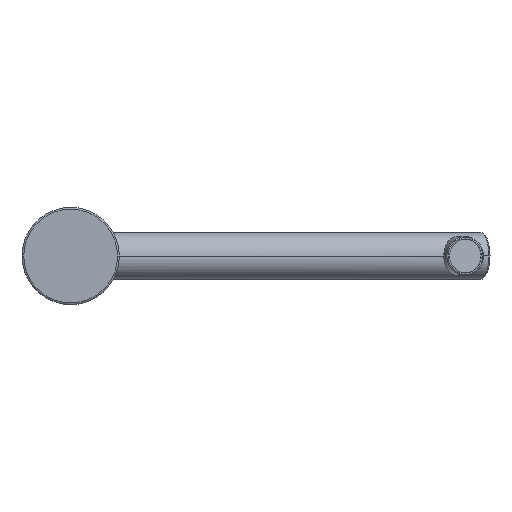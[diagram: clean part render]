
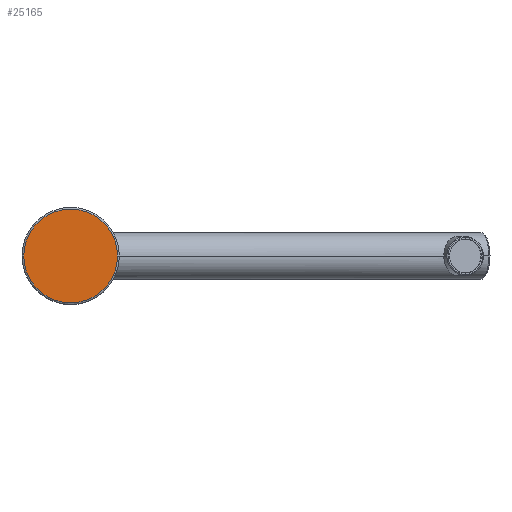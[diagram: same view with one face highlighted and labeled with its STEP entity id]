
A CAD part, front view. The second image highlights one B-rep face of the part: STEP entity #25165.
In plain terms, the highlighted planar face has unit normal (0, -1, 0).
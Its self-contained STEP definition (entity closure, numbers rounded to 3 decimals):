
#24748=CARTESIAN_POINT('',(0.,-10.5,0.));
#24749=DIRECTION('',(0.,-1.,0.));
#24750=DIRECTION('',(-1.,0.,0.));
#24751=AXIS2_PLACEMENT_3D('',#24748,#24749,#24750);
#24753=CARTESIAN_POINT('',(0.,-10.5,0.));
#24754=DIRECTION('',(0.,-1.,0.));
#24755=DIRECTION('',(1.,0.,0.));
#24756=AXIS2_PLACEMENT_3D('',#24753,#24754,#24755);
#24812=CARTESIAN_POINT('',(-26.5,-10.5,0.));
#24813=CARTESIAN_POINT('',(26.5,-10.5,0.));
#24814=VERTEX_POINT('',#24812);
#24815=VERTEX_POINT('',#24813);
#25155=CARTESIAN_POINT('',(0.,-10.5,0.));
#25156=DIRECTION('',(0.,1.,0.));
#25157=DIRECTION('',(1.,0.,0.));
#25158=AXIS2_PLACEMENT_3D('',#25155,#25156,#25157);
#25159=PLANE('',#25158);
#25160=ORIENTED_EDGE('',*,*,#25133,.F.);
#25162=ORIENTED_EDGE('',*,*,#25161,.F.);
#25163=EDGE_LOOP('',(#25160,#25162));
#25164=FACE_OUTER_BOUND('',#25163,.F.);
#24752=CIRCLE('',#24751,26.5);
#24757=CIRCLE('',#24756,26.5);
#25133=EDGE_CURVE('',#24814,#24815,#24752,.T.);
#25161=EDGE_CURVE('',#24815,#24814,#24757,.T.);
#25165=ADVANCED_FACE('',(#25164),#25159,.F.);
